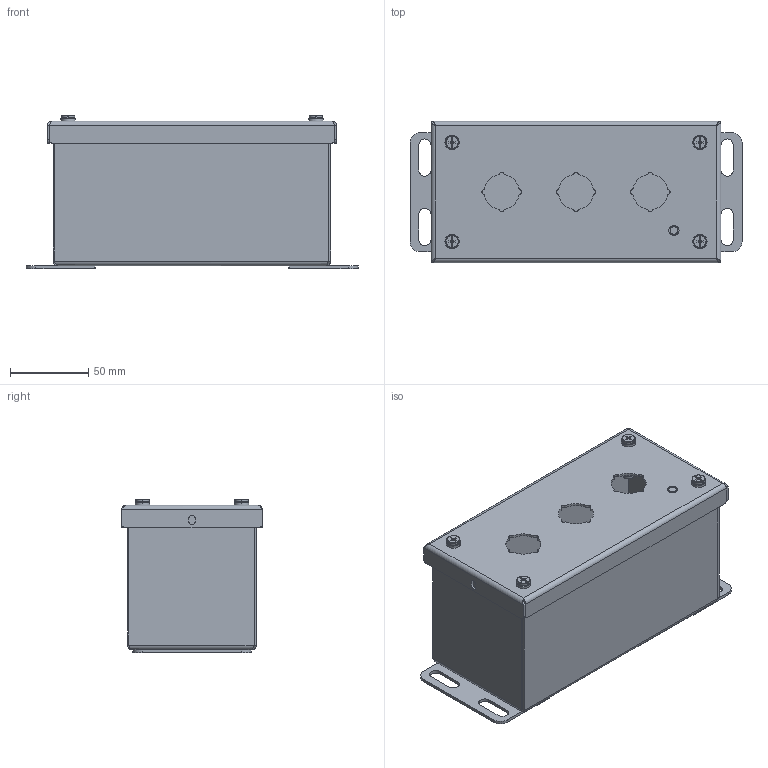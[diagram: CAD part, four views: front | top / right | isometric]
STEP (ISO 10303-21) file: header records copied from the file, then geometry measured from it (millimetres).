
FILE_DESCRIPTION((''),'2;1');
FILE_NAME('MODEL-335_ASM','2025-09-12T11:20:30',('richards'),('SAGINAW CONTROL & ENGINEERING'),'CREO PARAMETRIC BY PTC INC, 2021284','CREO PARAMETRIC BY PTC INC, 2021284','');
FILE_SCHEMA(('AUTOMOTIVE_DESIGN { 1 0 10303 214 1 1 1 1 }'));
Length unit declared in the file: inch
Products named in the file (10): MODEL-335-BDY; MODEL-335-DR; 100063; 102145; 101966; 100009; 100983; 102534; MODEL-335-GSKT; MODEL-335_ASM
Assembly tree (16 placements, depth 2):
  MODEL-335_ASM
    MODEL-335-BDY
    MODEL-335-DR
    100063
    102145  x2
    101966
    100009
    100983  x4
    102534  x4
    MODEL-335-GSKT
Bounding box: 212.72 x 90.49 x 98.39 mm (x, y, z)
Volume: 151632.1 mm3; surface area: 200227.7 mm2
Topology: 19 solids, 19 shells, 758 faces, 1887 edges, 1114 vertices
Faces by surface type: plane 278, cylinder 272, bspline 100, torus 80, cone 28
Entity records: 22167 total; most frequent: CARTESIAN_POINT 6005, DIRECTION 2307, ORIENTED_EDGE 2222, EDGE_CURVE 1111, PRESENTATION_STYLE_ASSIGNMENT 1023, STYLED_ITEM 1023, CURVE_STYLE 947, AXIS2_PLACEMENT_3D 841
